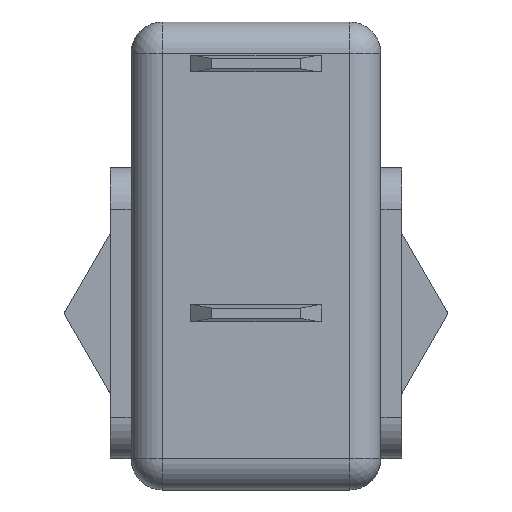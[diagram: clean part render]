
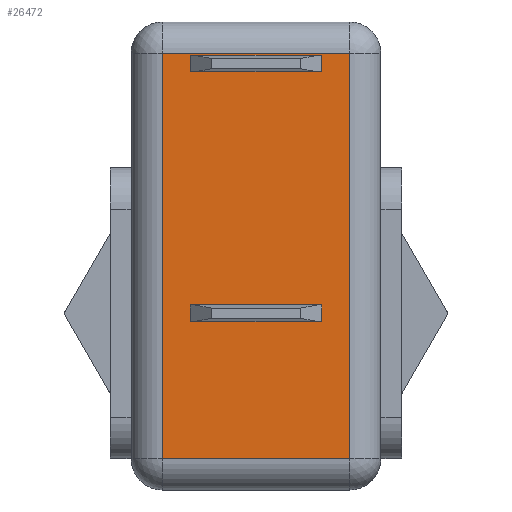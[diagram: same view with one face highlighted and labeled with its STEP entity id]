
A CAD part, front view. The second image highlights one B-rep face of the part: STEP entity #26472.
In plain terms, the highlighted planar face has unit normal (0, -1, 0).
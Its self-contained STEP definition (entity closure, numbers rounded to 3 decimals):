
#10400=DIRECTION('',(-1.,0.,0.));
#10401=VECTOR('',#10400,9.);
#10402=CARTESIAN_POINT('',(4.5,4.102,21.));
#10403=LINE('',#10402,#10401);
#10404=DIRECTION('',(0.,0.,1.));
#10405=VECTOR('',#10404,19.5);
#10406=CARTESIAN_POINT('',(4.5,4.102,1.5));
#10407=LINE('',#10406,#10405);
#10408=DIRECTION('',(1.,0.,0.));
#10409=VECTOR('',#10408,9.);
#10410=CARTESIAN_POINT('',(-4.5,4.102,1.5));
#10411=LINE('',#10410,#10409);
#10412=DIRECTION('',(0.,0.,-1.));
#10413=VECTOR('',#10412,19.5);
#10414=CARTESIAN_POINT('',(-4.5,4.102,21.));
#10415=LINE('',#10414,#10413);
#10416=DIRECTION('',(1.,0.,0.));
#10417=VECTOR('',#10416,6.3);
#10418=CARTESIAN_POINT('',(-3.15,4.102,20.9));
#10419=LINE('',#10418,#10417);
#10420=DIRECTION('',(0.,0.,-1.));
#10421=VECTOR('',#10420,0.8);
#10422=CARTESIAN_POINT('',(-3.15,4.102,20.9));
#10423=LINE('',#10422,#10421);
#10424=DIRECTION('',(1.,0.,0.));
#10425=VECTOR('',#10424,6.3);
#10426=CARTESIAN_POINT('',(-3.15,4.102,20.1));
#10427=LINE('',#10426,#10425);
#10428=DIRECTION('',(0.,0.,-1.));
#10429=VECTOR('',#10428,0.8);
#10430=CARTESIAN_POINT('',(3.15,4.102,20.9));
#10431=LINE('',#10430,#10429);
#10432=DIRECTION('',(1.,0.,0.));
#10433=VECTOR('',#10432,6.3);
#10434=CARTESIAN_POINT('',(-3.15,4.102,8.9));
#10435=LINE('',#10434,#10433);
#10436=DIRECTION('',(0.,0.,-1.));
#10437=VECTOR('',#10436,0.8);
#10438=CARTESIAN_POINT('',(-3.15,4.102,8.9));
#10439=LINE('',#10438,#10437);
#10440=DIRECTION('',(1.,0.,0.));
#10441=VECTOR('',#10440,6.3);
#10442=CARTESIAN_POINT('',(-3.15,4.102,8.1));
#10443=LINE('',#10442,#10441);
#10444=DIRECTION('',(0.,0.,-1.));
#10445=VECTOR('',#10444,0.8);
#10446=CARTESIAN_POINT('',(3.15,4.102,8.9));
#10447=LINE('',#10446,#10445);
#10990=CARTESIAN_POINT('',(4.5,4.102,1.5));
#10992=VERTEX_POINT('',#10990);
#10998=CARTESIAN_POINT('',(-4.5,4.102,1.5));
#10999=VERTEX_POINT('',#10998);
#11010=CARTESIAN_POINT('',(-4.5,4.102,21.));
#11011=VERTEX_POINT('',#11010);
#11013=CARTESIAN_POINT('',(4.5,4.102,21.));
#11015=VERTEX_POINT('',#11013);
#11778=CARTESIAN_POINT('',(-3.15,4.102,20.9));
#11779=CARTESIAN_POINT('',(3.15,4.102,20.9));
#11780=VERTEX_POINT('',#11778);
#11781=VERTEX_POINT('',#11779);
#11782=CARTESIAN_POINT('',(-3.15,4.102,20.1));
#11783=CARTESIAN_POINT('',(3.15,4.102,20.1));
#11784=VERTEX_POINT('',#11782);
#11785=VERTEX_POINT('',#11783);
#11906=CARTESIAN_POINT('',(-3.15,4.102,8.9));
#11907=CARTESIAN_POINT('',(3.15,4.102,8.9));
#11908=VERTEX_POINT('',#11906);
#11909=VERTEX_POINT('',#11907);
#11910=CARTESIAN_POINT('',(-3.15,4.102,8.1));
#11911=CARTESIAN_POINT('',(3.15,4.102,8.1));
#11912=VERTEX_POINT('',#11910);
#11913=VERTEX_POINT('',#11911);
#26441=CARTESIAN_POINT('',(-6.,4.102,0.));
#26442=DIRECTION('',(0.,-1.,0.));
#26443=DIRECTION('',(1.,0.,0.));
#26444=AXIS2_PLACEMENT_3D('',#26441,#26442,#26443);
#26445=PLANE('',#26444);
#26446=ORIENTED_EDGE('',*,*,#26358,.F.);
#26447=ORIENTED_EDGE('',*,*,#26434,.F.);
#26448=ORIENTED_EDGE('',*,*,#26411,.F.);
#26449=ORIENTED_EDGE('',*,*,#26384,.F.);
#26450=EDGE_LOOP('',(#26446,#26447,#26448,#26449));
#26451=FACE_OUTER_BOUND('',#26450,.F.);
#26453=ORIENTED_EDGE('',*,*,#26452,.F.);
#26455=ORIENTED_EDGE('',*,*,#26454,.T.);
#26457=ORIENTED_EDGE('',*,*,#26456,.T.);
#26459=ORIENTED_EDGE('',*,*,#26458,.F.);
#26460=EDGE_LOOP('',(#26453,#26455,#26457,#26459));
#26461=FACE_BOUND('',#26460,.F.);
#26463=ORIENTED_EDGE('',*,*,#26462,.F.);
#26465=ORIENTED_EDGE('',*,*,#26464,.T.);
#26467=ORIENTED_EDGE('',*,*,#26466,.T.);
#26469=ORIENTED_EDGE('',*,*,#26468,.F.);
#26470=EDGE_LOOP('',(#26463,#26465,#26467,#26469));
#26471=FACE_BOUND('',#26470,.F.);
#26472=ADVANCED_FACE('',(#26451,#26461,#26471),#26445,.T.);
#26358=EDGE_CURVE('',#11015,#11011,#10403,.T.);
#26384=EDGE_CURVE('',#11011,#10999,#10415,.T.);
#26411=EDGE_CURVE('',#10999,#10992,#10411,.T.);
#26434=EDGE_CURVE('',#10992,#11015,#10407,.T.);
#26452=EDGE_CURVE('',#11780,#11781,#10419,.T.);
#26454=EDGE_CURVE('',#11780,#11784,#10423,.T.);
#26456=EDGE_CURVE('',#11784,#11785,#10427,.T.);
#26458=EDGE_CURVE('',#11781,#11785,#10431,.T.);
#26462=EDGE_CURVE('',#11908,#11909,#10435,.T.);
#26464=EDGE_CURVE('',#11908,#11912,#10439,.T.);
#26466=EDGE_CURVE('',#11912,#11913,#10443,.T.);
#26468=EDGE_CURVE('',#11909,#11913,#10447,.T.);
